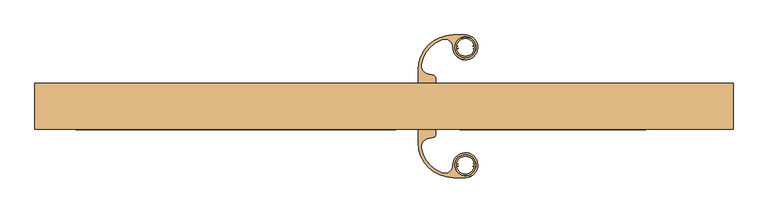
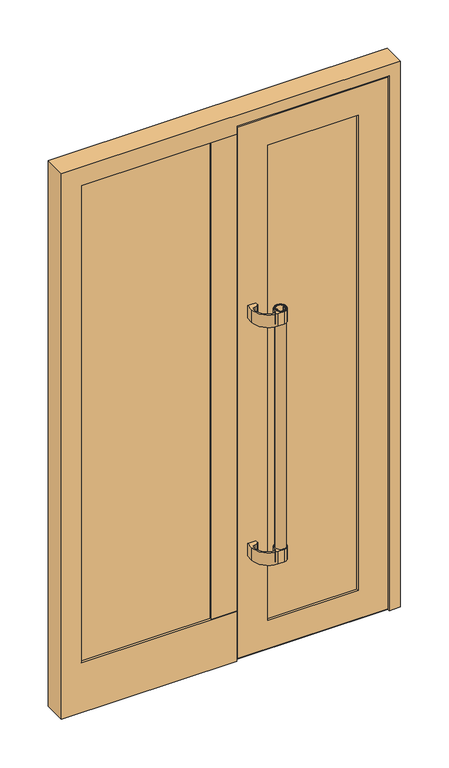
"""IFC4 building model written with IfcOpenShell, lengths in millimetres: door geometry, Jednokrilna vrata s fiksnim poljem_ : Jednokrilna vrata s fiksnim poljem_."""

from ifc_helpers import new_model, si_unit, point, frame, frame_2d, origin, place, context, project, spatial, polyline, circle_curve, trimmed, segment, composite_curve, outline, extrude, faceted_brep, source, transform, mapped, element, save
from ifc_brep_helpers import plane_surface, cylinder_surface, advanced_brep


def door_2957b7f0(model_context):
    return source(origin(), model_context, "Body", "SolidModel", [
        extrude(outline(composite_curve([segment(trimmed(circle_curve(frame_2d((149.1417143, 90.4503623)), 19.0), [point((130.1417143, 90.4503623))], [point((168.1417143, 90.4503623))], False, "CARTESIAN"), True, "CONTINUOUS"), segment(trimmed(circle_curve(frame_2d((149.1417143, 90.4503623)), 19.0), [point((168.1417143, 90.4503623))], [point((130.1417143, 90.4503623))], False, "CARTESIAN"), True, "CONTINUOUS")], self_intersect=False), holes=[composite_curve([segment(trimmed(circle_curve(frame_2d((134.6817143, 90.4503623)), 1.55), [point((135.7777298, 91.5463778))], [point((135.7777298, 89.3543468))], True, "CARTESIAN"), True, "CONTINUOUS"), segment(polyline([(135.7777298, 89.3543468), (136.924331, 89.3543468), (136.924331, 88.3831976)]), True, "CONTINUOUS"), segment(trimmed(circle_curve(frame_2d((134.6817143, 90.4503623)), 3.05), [point((136.924331, 88.3831976))], [point((134.6817143, 87.4003623))], False, "CARTESIAN"), True, "CONTINUOUS"), segment(polyline([(134.6817143, 87.4003623), (133.4351074, 87.4003623)]), True, "CONTINUOUS"), segment(trimmed(circle_curve(frame_2d((149.1417143, 90.4503623)), 16.0), [point((133.4351074, 87.4003623))], [point((164.8483211, 87.4003623))], True, "CARTESIAN"), True, "CONTINUOUS"), segment(polyline([(164.8483211, 87.4003623), (163.6417143, 87.4003623)]), True, "CONTINUOUS"), segment(trimmed(circle_curve(frame_2d((163.6417143, 90.4503623)), 3.05), [point((163.6417143, 87.4003623))], [point((161.3990975, 88.3831976))], False, "CARTESIAN"), True, "CONTINUOUS"), segment(polyline([(161.3990975, 88.3831976), (161.3990975, 89.3543468), (162.5456987, 89.3543468)]), True, "CONTINUOUS"), segment(trimmed(circle_curve(frame_2d((163.6417143, 90.4503623)), 1.55), [point((162.5456987, 89.3543468))], [point((162.5456987, 91.5463778))], True, "CARTESIAN"), True, "CONTINUOUS"), segment(polyline([(162.5456987, 91.5463778), (161.3990975, 91.5463778), (161.3990975, 92.5175271)]), True, "CONTINUOUS"), segment(trimmed(circle_curve(frame_2d((163.6417143, 90.4503623)), 3.05), [point((161.3990975, 92.5175271))], [point((163.6417143, 93.5003623))], False, "CARTESIAN"), True, "CONTINUOUS"), segment(polyline([(163.6417143, 93.5003623), (164.8483211, 93.5003623)]), True, "CONTINUOUS"), segment(trimmed(circle_curve(frame_2d((149.1417143, 90.4503623)), 16.0), [point((164.8483211, 93.5003623))], [point((133.4351074, 93.5003623))], True, "CARTESIAN"), True, "CONTINUOUS"), segment(polyline([(133.4351074, 93.5003623), (134.6817143, 93.5003623)]), True, "CONTINUOUS"), segment(trimmed(circle_curve(frame_2d((134.6817143, 90.4503623)), 3.05), [point((134.6817143, 93.5003623))], [point((136.924331, 92.5175271))], False, "CARTESIAN"), True, "CONTINUOUS"), segment(polyline([(136.924331, 92.5175271), (136.924331, 91.5463778), (135.7777298, 91.5463778)]), True, "CONTINUOUS")], self_intersect=False)]), frame((0.0, 0.0, 415.6), z_axis=(0.0, 0.0, 1.0), x_axis=(1.0, 0.0, 0.0)), (0.0, 0.0, 1.0), 1000.0),
        extrude(outline(composite_curve([segment(polyline([(67.5948371, 25.0026001), (62.5948371, 25.0026001), (62.5948371, 49.2003623)]), True, "CONTINUOUS"), segment(trimmed(circle_curve(frame_2d((126.5920781, 49.2003623)), 63.997241), [point((62.5948371, 49.2003623))], [point((126.5920781, 113.1976033))], False, "CARTESIAN"), True, "CONTINUOUS"), segment(polyline([(126.5920781, 113.1976033), (149.496015, 113.1976033)]), True, "CONTINUOUS"), segment(trimmed(circle_curve(frame_2d((149.0775698, 90.2580546)), 22.9433648), [point((149.496015, 113.1976033))], [point((162.5138287, 108.8554989))], False, "CARTESIAN"), True, "CONTINUOUS"), segment(trimmed(circle_curve(frame_2d((149.2194515, 90.4544363)), 22.7010919), [point((162.5138287, 108.8554989))], [point((164.3644356, 73.5438175))], False, "CARTESIAN"), True, "CONTINUOUS"), segment(trimmed(circle_curve(frame_2d((149.1366557, 90.5468846)), 22.8251959), [point((164.3644356, 73.5438175))], [point((135.7695998, 72.0452257))], False, "CARTESIAN"), True, "CONTINUOUS"), segment(trimmed(circle_curve(frame_2d((149.0233469, 90.3900511)), 22.631713), [point((135.7695998, 72.0452257))], [point((126.3917143, 90.4503623))], False, "CARTESIAN"), True, "CONTINUOUS"), segment(trimmed(circle_curve(frame_2d((111.3917226, 90.4903359)), 15.0000449), [point((126.3917143, 90.4503623))], [point((106.2238604, 104.5720456))], True, "CARTESIAN"), True, "CONTINUOUS"), segment(trimmed(circle_curve(frame_2d((126.5224998, 49.2610605)), 58.9180773), [point((106.2238604, 104.5720456))], [point((68.5269912, 59.6466662))], True, "CARTESIAN"), True, "CONTINUOUS"), segment(trimmed(circle_curve(frame_2d((83.2418584, 56.7162785)), 15.0038159), [point((68.5269912, 59.6466662))], [point((79.3585852, 42.2237053))], True, "CARTESIAN"), True, "CONTINUOUS"), segment(polyline([(79.3585852, 42.2237053), (90.8889324, 39.1341581)]), True, "CONTINUOUS"), segment(trimmed(circle_curve(frame_2d((89.5948371, 34.3045289)), 5.0), [point((90.8889324, 39.1341581))], [point((94.5948371, 34.3045289))], False, "CARTESIAN"), True, "CONTINUOUS"), segment(polyline([(94.5948371, 34.3045289), (94.5948371, 25.0026001), (67.5948371, 25.0026001)]), True, "CONTINUOUS")], self_intersect=False), holes=[composite_curve([segment(trimmed(circle_curve(frame_2d((149.1417143, 90.4503623)), 19.25), [point((129.8917143, 90.4503623))], [point((168.3917143, 90.4503623))], True, "CARTESIAN"), True, "CONTINUOUS"), segment(trimmed(circle_curve(frame_2d((149.1417143, 90.4503623)), 19.25), [point((168.3917143, 90.4503623))], [point((129.8917143, 90.4503623))], True, "CARTESIAN"), True, "CONTINUOUS")], self_intersect=False)]), frame((0.0, 0.0, 1365.6), z_axis=(0.0, 0.0, 1.0), x_axis=(1.0, 0.0, 0.0)), (0.0, 0.0, 1.0), 50.0),
        extrude(outline(composite_curve([segment(polyline([(67.5948371, 25.0026001), (62.5948371, 25.0026001), (62.5948371, 49.2003623)]), True, "CONTINUOUS"), segment(trimmed(circle_curve(frame_2d((126.5920781, 49.2003623)), 63.997241), [point((62.5948371, 49.2003623))], [point((126.5920781, 113.1976033))], False, "CARTESIAN"), True, "CONTINUOUS"), segment(polyline([(126.5920781, 113.1976033), (149.496015, 113.1976033)]), True, "CONTINUOUS"), segment(trimmed(circle_curve(frame_2d((149.0775698, 90.2580546)), 22.9433648), [point((149.496015, 113.1976033))], [point((162.5138287, 108.8554989))], False, "CARTESIAN"), True, "CONTINUOUS"), segment(trimmed(circle_curve(frame_2d((149.2194515, 90.4544363)), 22.7010919), [point((162.5138287, 108.8554989))], [point((164.3644356, 73.5438175))], False, "CARTESIAN"), True, "CONTINUOUS"), segment(trimmed(circle_curve(frame_2d((149.1366557, 90.5468846)), 22.8251959), [point((164.3644356, 73.5438175))], [point((135.7695998, 72.0452257))], False, "CARTESIAN"), True, "CONTINUOUS"), segment(trimmed(circle_curve(frame_2d((149.0233469, 90.3900511)), 22.631713), [point((135.7695998, 72.0452257))], [point((126.3917143, 90.4503623))], False, "CARTESIAN"), True, "CONTINUOUS"), segment(trimmed(circle_curve(frame_2d((111.3917226, 90.4903359)), 15.0000449), [point((126.3917143, 90.4503623))], [point((106.2238604, 104.5720456))], True, "CARTESIAN"), True, "CONTINUOUS"), segment(trimmed(circle_curve(frame_2d((126.5224998, 49.2610605)), 58.9180773), [point((106.2238604, 104.5720456))], [point((68.5269912, 59.6466662))], True, "CARTESIAN"), True, "CONTINUOUS"), segment(trimmed(circle_curve(frame_2d((83.2418584, 56.7162785)), 15.0038159), [point((68.5269912, 59.6466662))], [point((79.3585852, 42.2237053))], True, "CARTESIAN"), True, "CONTINUOUS"), segment(polyline([(79.3585852, 42.2237053), (90.8889324, 39.1341581)]), True, "CONTINUOUS"), segment(trimmed(circle_curve(frame_2d((89.5948371, 34.3045289)), 5.0), [point((90.8889324, 39.1341581))], [point((94.5948371, 34.3045289))], False, "CARTESIAN"), True, "CONTINUOUS"), segment(polyline([(94.5948371, 34.3045289), (94.5948371, 25.0026001), (67.5948371, 25.0026001)]), True, "CONTINUOUS")], self_intersect=False), holes=[composite_curve([segment(trimmed(circle_curve(frame_2d((149.1417143, 90.4503623)), 19.25), [point((129.8917143, 90.4503623))], [point((168.3917143, 90.4503623))], True, "CARTESIAN"), True, "CONTINUOUS"), segment(trimmed(circle_curve(frame_2d((149.1417143, 90.4503623)), 19.25), [point((168.3917143, 90.4503623))], [point((129.8917143, 90.4503623))], True, "CARTESIAN"), True, "CONTINUOUS")], self_intersect=False)]), frame((0.0, 0.0, 415.6), z_axis=(0.0, 0.0, 1.0), x_axis=(1.0, 0.0, 0.0)), (0.0, 0.0, 1.0), 50.0),
        extrude(outline(composite_curve([segment(trimmed(circle_curve(frame_2d((149.1417143, -125.4477253)), 19.0), [point((130.1417143, -125.4477253))], [point((168.1417143, -125.4477253))], False, "CARTESIAN"), True, "CONTINUOUS"), segment(trimmed(circle_curve(frame_2d((149.1417143, -125.4477253)), 19.0), [point((168.1417143, -125.4477253))], [point((130.1417143, -125.4477253))], False, "CARTESIAN"), True, "CONTINUOUS")], self_intersect=False), holes=[composite_curve([segment(polyline([(135.7777298, -126.5437408), (136.924331, -126.5437408), (136.924331, -127.51489)]), True, "CONTINUOUS"), segment(trimmed(circle_curve(frame_2d((134.6817143, -125.4477253)), 3.05), [point((136.924331, -127.51489))], [point((134.6817143, -128.4977253))], False, "CARTESIAN"), True, "CONTINUOUS"), segment(polyline([(134.6817143, -128.4977253), (133.4351074, -128.4977253)]), True, "CONTINUOUS"), segment(trimmed(circle_curve(frame_2d((149.1417143, -125.4477253)), 16.0), [point((133.4351074, -128.4977253))], [point((164.8483211, -128.4977253))], True, "CARTESIAN"), True, "CONTINUOUS"), segment(polyline([(164.8483211, -128.4977253), (163.6417143, -128.4977253)]), True, "CONTINUOUS"), segment(trimmed(circle_curve(frame_2d((163.6417143, -125.4477253)), 3.05), [point((163.6417143, -128.4977253))], [point((161.3990975, -127.51489))], False, "CARTESIAN"), True, "CONTINUOUS"), segment(polyline([(161.3990975, -127.51489), (161.3990975, -126.5437408), (162.5456987, -126.5437408)]), True, "CONTINUOUS"), segment(trimmed(circle_curve(frame_2d((163.6417143, -125.4477253)), 1.55), [point((162.5456987, -126.5437408))], [point((162.5456987, -124.3517097))], True, "CARTESIAN"), True, "CONTINUOUS"), segment(polyline([(162.5456987, -124.3517097), (161.3990975, -124.3517097), (161.3990975, -123.3805605)]), True, "CONTINUOUS"), segment(trimmed(circle_curve(frame_2d((163.6417143, -125.4477253)), 3.05), [point((161.3990975, -123.3805605))], [point((163.6417143, -122.3977253))], False, "CARTESIAN"), True, "CONTINUOUS"), segment(polyline([(163.6417143, -122.3977253), (164.8483211, -122.3977253)]), True, "CONTINUOUS"), segment(trimmed(circle_curve(frame_2d((149.1417143, -125.4477253)), 16.0), [point((164.8483211, -122.3977253))], [point((133.4351074, -122.3977253))], True, "CARTESIAN"), True, "CONTINUOUS"), segment(polyline([(133.4351074, -122.3977253), (134.6817143, -122.3977253)]), True, "CONTINUOUS"), segment(trimmed(circle_curve(frame_2d((134.6817143, -125.4477253)), 3.05), [point((134.6817143, -122.3977253))], [point((136.924331, -123.3805605))], False, "CARTESIAN"), True, "CONTINUOUS"), segment(polyline([(136.924331, -123.3805605), (136.924331, -124.3517097), (135.7777298, -124.3517097)]), True, "CONTINUOUS"), segment(trimmed(circle_curve(frame_2d((134.6817143, -125.4477253)), 1.55), [point((135.7777298, -124.3517097))], [point((135.7777298, -126.5437408))], True, "CARTESIAN"), True, "CONTINUOUS")], self_intersect=False)]), frame((0.0, 0.0, 415.6), z_axis=(0.0, 0.0, 1.0), x_axis=(1.0, 0.0, 0.0)), (0.0, 0.0, 1.0), 1000.0),
        extrude(outline(composite_curve([segment(polyline([(67.5948371, -59.999963), (94.5948371, -59.999963), (94.5948371, -69.3018919)]), True, "CONTINUOUS"), segment(trimmed(circle_curve(frame_2d((89.5948371, -69.3018919)), 5.0), [point((94.5948371, -69.3018919))], [point((90.8889324, -74.131521))], False, "CARTESIAN"), True, "CONTINUOUS"), segment(polyline([(90.8889324, -74.131521), (79.3585852, -77.2210682)]), True, "CONTINUOUS"), segment(trimmed(circle_curve(frame_2d((83.2418584, -91.7136415)), 15.0038159), [point((79.3585852, -77.2210682))], [point((68.5269912, -94.6440291))], True, "CARTESIAN"), True, "CONTINUOUS"), segment(trimmed(circle_curve(frame_2d((126.5224998, -84.2584235)), 58.9180773), [point((68.5269912, -94.6440291))], [point((106.2238604, -139.5694085))], True, "CARTESIAN"), True, "CONTINUOUS"), segment(trimmed(circle_curve(frame_2d((111.3917226, -125.4876988)), 15.0000449), [point((106.2238604, -139.5694085))], [point((126.3917143, -125.4477253))], True, "CARTESIAN"), True, "CONTINUOUS"), segment(trimmed(circle_curve(frame_2d((149.0233469, -125.3874141)), 22.631713), [point((126.3917143, -125.4477253))], [point((135.7695998, -107.0425886))], False, "CARTESIAN"), True, "CONTINUOUS"), segment(trimmed(circle_curve(frame_2d((149.1366557, -125.5442475)), 22.8251959), [point((135.7695998, -107.0425886))], [point((164.3644356, -108.5411805))], False, "CARTESIAN"), True, "CONTINUOUS"), segment(trimmed(circle_curve(frame_2d((149.2194515, -125.4517993)), 22.7010919), [point((164.3644356, -108.5411805))], [point((162.5138287, -143.8528619))], False, "CARTESIAN"), True, "CONTINUOUS"), segment(trimmed(circle_curve(frame_2d((149.0775698, -125.2554176)), 22.9433648), [point((162.5138287, -143.8528619))], [point((149.496015, -148.1949662))], False, "CARTESIAN"), True, "CONTINUOUS"), segment(polyline([(149.496015, -148.1949662), (126.5920781, -148.1949662)]), True, "CONTINUOUS"), segment(trimmed(circle_curve(frame_2d((126.5920781, -84.1977253)), 63.997241), [point((126.5920781, -148.1949662))], [point((62.5948371, -84.1977253))], False, "CARTESIAN"), True, "CONTINUOUS"), segment(polyline([(62.5948371, -84.1977253), (62.5948371, -59.999963), (67.5948371, -59.999963)]), True, "CONTINUOUS")], self_intersect=False), holes=[composite_curve([segment(trimmed(circle_curve(frame_2d((149.1417143, -125.4477253)), 19.25), [point((129.8917143, -125.4477253))], [point((168.3917143, -125.4477253))], True, "CARTESIAN"), True, "CONTINUOUS"), segment(trimmed(circle_curve(frame_2d((149.1417143, -125.4477253)), 19.25), [point((168.3917143, -125.4477253))], [point((129.8917143, -125.4477253))], True, "CARTESIAN"), True, "CONTINUOUS")], self_intersect=False)]), frame((0.0, 0.0, 1365.6), z_axis=(0.0, 0.0, 1.0), x_axis=(1.0, 0.0, 0.0)), (0.0, 0.0, 1.0), 50.0),
        extrude(outline(composite_curve([segment(polyline([(67.5948371, -59.999963), (94.5948371, -59.999963), (94.5948371, -69.3018919)]), True, "CONTINUOUS"), segment(trimmed(circle_curve(frame_2d((89.5948371, -69.3018919)), 5.0), [point((94.5948371, -69.3018919))], [point((90.8889324, -74.131521))], False, "CARTESIAN"), True, "CONTINUOUS"), segment(polyline([(90.8889324, -74.131521), (79.3585852, -77.2210682)]), True, "CONTINUOUS"), segment(trimmed(circle_curve(frame_2d((83.2418584, -91.7136415)), 15.0038159), [point((79.3585852, -77.2210682))], [point((68.5269912, -94.6440291))], True, "CARTESIAN"), True, "CONTINUOUS"), segment(trimmed(circle_curve(frame_2d((126.5224998, -84.2584235)), 58.9180773), [point((68.5269912, -94.6440291))], [point((106.2238604, -139.5694085))], True, "CARTESIAN"), True, "CONTINUOUS"), segment(trimmed(circle_curve(frame_2d((111.3917226, -125.4876988)), 15.0000449), [point((106.2238604, -139.5694085))], [point((126.3917143, -125.4477253))], True, "CARTESIAN"), True, "CONTINUOUS"), segment(trimmed(circle_curve(frame_2d((149.0233469, -125.3874141)), 22.631713), [point((126.3917143, -125.4477253))], [point((135.7695998, -107.0425886))], False, "CARTESIAN"), True, "CONTINUOUS"), segment(trimmed(circle_curve(frame_2d((149.1366557, -125.5442475)), 22.8251959), [point((135.7695998, -107.0425886))], [point((164.3644356, -108.5411805))], False, "CARTESIAN"), True, "CONTINUOUS"), segment(trimmed(circle_curve(frame_2d((149.2194515, -125.4517993)), 22.7010919), [point((164.3644356, -108.5411805))], [point((162.5138287, -143.8528619))], False, "CARTESIAN"), True, "CONTINUOUS"), segment(trimmed(circle_curve(frame_2d((149.0775698, -125.2554176)), 22.9433648), [point((162.5138287, -143.8528619))], [point((149.496015, -148.1949662))], False, "CARTESIAN"), True, "CONTINUOUS"), segment(polyline([(149.496015, -148.1949662), (126.5920781, -148.1949662)]), True, "CONTINUOUS"), segment(trimmed(circle_curve(frame_2d((126.5920781, -84.1977253)), 63.997241), [point((126.5920781, -148.1949662))], [point((62.5948371, -84.1977253))], False, "CARTESIAN"), True, "CONTINUOUS"), segment(polyline([(62.5948371, -84.1977253), (62.5948371, -59.999963), (67.5948371, -59.999963)]), True, "CONTINUOUS")], self_intersect=False), holes=[composite_curve([segment(trimmed(circle_curve(frame_2d((149.1417143, -125.4477253)), 19.25), [point((129.8917143, -125.4477253))], [point((168.3917143, -125.4477253))], True, "CARTESIAN"), True, "CONTINUOUS"), segment(trimmed(circle_curve(frame_2d((149.1417143, -125.4477253)), 19.25), [point((168.3917143, -125.4477253))], [point((129.8917143, -125.4477253))], True, "CARTESIAN"), True, "CONTINUOUS")], self_intersect=False)]), frame((0.0, 0.0, 415.6), z_axis=(0.0, 0.0, 1.0), x_axis=(1.0, 0.0, 0.0)), (0.0, 0.0, 1.0), 50.0),
        extrude(outline(polyline([(123.4896574, -50.5041386), (123.4896574, -6.5041386), (495.0103426, -6.5041386), (495.0103426, -50.5041386), (123.4896574, -50.5041386)])), frame((0.0, 0.0, 116.9896574), z_axis=(0.0, 0.0, 1.0), x_axis=(1.0, 0.0, 0.0)), (0.0, 0.0, 1.0), 1928.0206852),
        faceted_brep([(480.0077577, -59.999963, 2030.0077577), (480.0077577, -50.5041386, 2030.0077577), (480.0077577, -50.5041386, 131.9922423), (480.0077577, -59.999963, 131.9922423), (592.0034819, -59.999963, 19.9965181), (592.0034819, -59.999963, 2142.0034819), (26.4965181, -59.999963, 2142.0034819), (26.4965181, -59.999963, 19.9965181), (138.4922423, -59.999963, 131.9922423), (138.4922423, -59.999963, 2030.0077577), (138.4922423, -50.5041386, 131.9922423), (495.0103426, -50.5041386, 2045.0103426), (495.0103426, -50.5041386, 116.9896574), (123.4896574, -50.5041386, 116.9896574), (123.4896574, -50.5041386, 2045.0103426), (138.4922423, -50.5041386, 2030.0077577), (495.0103426, -6.5041386, 2045.0103426), (495.0103426, -6.5041386, 116.9896574), (123.4896574, -6.5041386, 116.9896574), (123.4896574, -6.5041386, 2045.0103426), (480.0079287, -6.5041386, 2030.0079287), (480.0079287, -6.5041386, 131.9920713), (138.4920713, -6.5041386, 131.9920713), (138.4920713, -6.5041386, 2030.0079287), (480.0079287, 25.0026001, 2030.0079287), (480.0079287, 25.0026001, 131.9920713), (138.4920713, 25.0026001, 131.9920713), (563.0095093, 25.0026001, 2113.0095093), (563.0095093, 25.0026001, 48.9904907), (55.4904907, 25.0026001, 48.9904907), (55.4904907, 25.0026001, 2113.0095093), (138.4920713, 25.0026001, 2030.0079287), (563.0095093, 16.5025161, 2113.0095093), (563.0095093, 16.5025161, 48.9904907), (55.4904907, 16.5025161, 48.9904907), (574.406518, 16.5025161, 2124.406518), (574.406518, 16.5025161, 37.593482), (44.093482, 16.5025161, 37.593482), (44.093482, 16.5025161, 2124.406518), (55.4904907, 16.5025161, 2113.0095093), (574.406518, -51.4892, 2124.406518), (574.406518, -51.4892, 37.593482), (44.093482, -51.4892, 37.593482), (592.0034819, -51.4892, 2142.0034819), (592.0034819, -51.4892, 19.9965181), (26.4965181, -51.4892, 19.9965181), (26.4965181, -51.4892, 2142.0034819), (44.093482, -51.4892, 2124.406518)], [[[0, 1, 2, 3]], [[4, 5, 6, 7], [0, 3, 8, 9]], [[2, 10, 8, 3]], [[11, 12, 13, 14], [2, 1, 15, 10]], [[16, 17, 12, 11]], [[17, 18, 13, 12]], [[17, 16, 19, 18], [20, 21, 22, 23]], [[24, 25, 21, 20]], [[25, 26, 22, 21]], [[27, 28, 29, 30], [25, 24, 31, 26]], [[32, 33, 28, 27]], [[33, 34, 29, 28]], [[35, 36, 37, 38], [33, 32, 39, 34]], [[40, 41, 36, 35]], [[41, 42, 37, 36]], [[43, 44, 45, 46], [41, 40, 47, 42]], [[5, 4, 44, 43]], [[4, 7, 45, 44]], [[10, 15, 9, 8]], [[18, 19, 14, 13]], [[26, 31, 23, 22]], [[34, 39, 30, 29]], [[42, 47, 38, 37]], [[7, 6, 46, 45]], [[15, 1, 0, 9]], [[19, 16, 11, 14]], [[31, 24, 20, 23]], [[39, 32, 27, 30]], [[47, 40, 35, 38]], [[6, 5, 43, 46]]]),
        extrude(outline(polyline([(-55.5040107, -11.50254), (-55.5040107, -51.50254), (-581.9999063, -51.50254), (-581.9999063, -11.50254), (-55.5040107, -11.50254)])), frame((0.0, 0.0, 191.9998283), z_axis=(0.0, 0.0, 1.0), x_axis=(1.0, 0.0, 0.0)), (0.0, 0.0, 1.0), 1940.0000781),
        advanced_brep(
        [(-640.0, 25.0, 10.0), (640.0, 25.0, 10.0), (640.0, -59.9997761, 10.0), (597.0034819, -59.9997761, 10.0), (597.0034819, -51.495562, 10.0), (21.4958143, -51.4957208, 10.0), (21.5, -59.999963, 10.0), (-640.0, -60.0013127, 10.0), (-640.0, -60.0013127, 2190.0), (-640.0, 25.0, 2190.0), (21.5, -60.0013127, 2115.5001827), (21.5, -60.0013127, 2147.0034819), (597.0034819, -60.0013127, 2147.0034819), (640.0, -60.0013127, 2190.0), (21.5, -60.0013127, 209.9996501), (-565.5001827, -60.0013127, 209.9996501), (-565.5001827, -60.0013127, 2115.5001827), (21.5, -51.4957208, 2147.0034819), (21.5, -59.4969669, 2115.5001827), (21.5, -59.4969669, 209.9996501), (597.0034819, -51.4957208, 2147.0034819), (36.9, -51.4957208, 2131.5093839), (581.5093839, -51.4957208, 2131.5093839), (581.5093839, -51.4957208, 25.5020089), (36.9, -51.4957208, 25.5020089), (640.0, 25.0, 2190.0), (568.009384, 25.0, 2118.009384), (50.4000003, 25.0, 2118.009384), (50.4000003, 25.0, 25.5020089), (568.009384, 25.0, 25.5020089), (-568.4799018, 25.0, 206.9998328), (-70.5040152, 25.0, 206.9998328), (-70.5040152, 25.0, 2118.4799018), (-568.4799018, 25.0, 2118.4799018), (-568.4799018, -11.50254, 2118.4799018), (-568.4799018, -11.50254, 206.9998328), (-70.5040152, -11.50254, 2118.4799018), (-70.5040152, -11.50254, 206.9998328), (568.009384, 16.4961541, 25.5020089), (568.009384, 16.4961541, 2118.009384), (50.4000003, 16.5038834, 25.5020089), (36.9, 16.5038834, 25.5020089), (36.9, -2.5534255, 25.5020089), (581.5093839, -2.5534255, 25.5020089), (581.5093839, 16.4961541, 25.5020089), (50.4000003, 16.5038834, 2118.009384), (-565.5001827, -51.50254, 209.9996501), (-565.5001827, -51.50254, 2115.5001827), (-73.5038331, -59.4969669, 209.9996501), (-73.5038331, -51.50254, 209.9996501), (-581.9999063, -51.50254, 2131.9999063), (-55.5040107, -51.50254, 2131.9999063), (-55.5040107, -51.50254, 191.9998283), (-581.9999063, -51.50254, 191.9998283), (-73.5038331, -51.50254, 2115.5001827), (-73.5038331, -59.4969669, 2115.5001827), (-581.9999063, -11.50254, 191.9998283), (-581.9999063, -11.50254, 2131.9999063), (-55.5040107, -11.50254, 191.9998283), (-55.5040107, -11.50254, 2131.9999063), (581.5093839, 16.5038834, 2131.5093839), (36.9, 16.5038834, 2131.5093839), (36.9, -34.7185189, 25.5020089), (36.9, -23.2837038, 29.7334181), (36.9, -12.6811663, 29.5820648), (581.5093839, -12.6811663, 29.5820648), (581.5093839, -23.2837038, 29.7334181), (581.5093839, -34.7185189, 25.5020089)],
        [
            (0, 1),
            (1, 2),
            (2, 3),
            (3, 4),
            (4, 5),
            (5, 6),
            (6, 7),
            (7, 0),
            (7, 8),
            (8, 9),
            (9, 0),
            (10, 11),
            (11, 12),
            (12, 3),
            (2, 13),
            (13, 8),
            (6, 14),
            (14, 15),
            (15, 16),
            (16, 10),
            (5, 17),
            (17, 11),
            (10, 18),
            (18, 19),
            (19, 14),
            (4, 20),
            (20, 17),
            (21, 22),
            (22, 23),
            (23, 24),
            (24, 21),
            (12, 20),
            (1, 25),
            (25, 13),
            (9, 25),
            (26, 27),
            (27, 28),
            (28, 29),
            (29, 26),
            (30, 31),
            (31, 32),
            (32, 33),
            (33, 30),
            (34, 35),
            (35, 30),
            (33, 34),
            (36, 32),
            (31, 37),
            (37, 36),
            (35, 37),
            (29, 38),
            (38, 39),
            (39, 26),
            (28, 40),
            (40, 41),
            (41, 42),
            (42, 43),
            (43, 44),
            (44, 38),
            (45, 40),
            (27, 45),
            (15, 46),
            (46, 47),
            (47, 16),
            (19, 48),
            (48, 49),
            (49, 46),
            (50, 51),
            (51, 52),
            (52, 53),
            (53, 50),
            (49, 54),
            (54, 47),
            (48, 55),
            (55, 54),
            (53, 56),
            (56, 57),
            (57, 50),
            (52, 58),
            (58, 56),
            (59, 58),
            (51, 59),
            (59, 57),
            (34, 36),
            (18, 55),
            (44, 60),
            (60, 61),
            (61, 41),
            (45, 39),
            (24, 62),
            (62, 63),
            (63, 64, circle_curve(frame((36.9, -18.1783048, 15.936763), z_axis=(-1.0, 0.0, 0.0), x_axis=(0.0, 0.3736760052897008, 0.9275592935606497)), 14.7109752)),
            (64, 42),
            (61, 21),
            (43, 65),
            (65, 66, circle_curve(frame((581.5093839, -18.1783048, 15.936763), z_axis=(1.0, 0.0, 0.0), x_axis=(0.0, 0.3736760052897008, 0.9275592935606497)), 14.7109752)),
            (66, 67),
            (67, 23),
            (22, 60),
            (64, 65),
            (63, 66),
            (62, 67),
        ],
        [
            plane_surface(frame((-640.0, 25.0, 10.0), z_axis=(0.0, 0.0, -1.0), x_axis=(0.0, 1.0, 0.0))),
            plane_surface(frame((-640.0, 25.0, 10.0), z_axis=(-1.0, 0.0, 0.0), x_axis=(0.0, 0.0, 1.0))),
            plane_surface(frame((-640.0, -60.0013127, 10.0), z_axis=(0.0, -1.0, 0.0), x_axis=(0.0, 0.0, 1.0))),
            plane_surface(frame((21.5, 25.0, 2190.0), z_axis=(1.0, 0.0, 0.0), x_axis=(0.0, 1.0, 0.0))),
            plane_surface(frame((36.9, -51.4957208, 2190.0), z_axis=(0.0, -1.0, 0.0), x_axis=(0.0, 0.0, -1.0))),
            plane_surface(frame((597.0034819, -59.9997761, 2147.0034819), z_axis=(-1.0, 0.0, 0.0), x_axis=(0.0, 0.0, -1.0))),
            plane_surface(frame((640.0, 25.0, 2190.0), z_axis=(1.0, 0.0, 0.0), x_axis=(0.0, 0.0, -1.0))),
            plane_surface(frame((-568.4799018, 25.0, 10.0), z_axis=(0.0, 1.0, 0.0), x_axis=(0.0, 0.0, 1.0))),
            plane_surface(frame((-568.4799018, -11.50254, 10.0), z_axis=(1.0, 0.0, 0.0), x_axis=(0.0, 0.0, 1.0))),
            plane_surface(frame((-70.5040152, -11.47254, 2190.0), z_axis=(-1.0, 0.0, 0.0), x_axis=(0.0, 0.0, -1.0))),
            plane_surface(frame((-640.0, 25.0, 206.9998328), z_axis=(0.0, 0.0, 1.0), x_axis=(1.0, 0.0, 0.0))),
            plane_surface(frame((568.009384, 16.4961541, 2118.009384), z_axis=(-1.0, 0.0, 0.0), x_axis=(0.0, 0.0, -1.0))),
            plane_surface(frame((21.5, 25.0, 25.5020089), z_axis=(0.0, 0.0, 1.0), x_axis=(1.0, 0.0, 0.0))),
            plane_surface(frame((50.4000003, 22.7499731, 2190.0), z_axis=(1.0, 0.0, 0.0), x_axis=(0.0, 0.0, -1.0))),
            plane_surface(frame((-565.5001827, -60.0013127, 10.0), z_axis=(1.0, 0.0, 0.0), x_axis=(0.0, 0.0, 1.0))),
            plane_surface(frame((-640.0, -51.50254, 209.9996501), z_axis=(0.0, 0.0, 1.0), x_axis=(1.0, 0.0, 0.0))),
            plane_surface(frame((-565.5001827, -51.50254, 10.0), z_axis=(0.0, 1.0, 0.0), x_axis=(0.0, 0.0, 1.0))),
            plane_surface(frame((-73.5038331, -59.4969669, 2190.0), z_axis=(-1.0, 0.0, 0.0), x_axis=(0.0, 0.0, -1.0))),
            plane_surface(frame((-581.9999063, -51.50254, 10.0), z_axis=(1.0, 0.0, 0.0), x_axis=(0.0, 0.0, 1.0))),
            plane_surface(frame((-640.0, -11.50254, 191.9998283), z_axis=(0.0, 0.0, 1.0), x_axis=(1.0, 0.0, 0.0))),
            plane_surface(frame((-55.5040107, -51.49254, 2190.0), z_axis=(-1.0, 0.0, 0.0), x_axis=(0.0, 0.0, -1.0))),
            plane_surface(frame((-581.9999063, -11.50254, 10.0), z_axis=(0.0, -1.0, 0.0), x_axis=(0.0, 0.0, 1.0))),
            plane_surface(frame((21.4958143, -59.4969669, 2190.0), z_axis=(0.0, -1.0, 0.0), x_axis=(0.0, 0.0, -1.0))),
            plane_surface(frame((50.4000003, 16.5038834, 2190.0), z_axis=(0.0, -1.0, 0.0), x_axis=(0.0, 0.0, -1.0))),
            plane_surface(frame((36.9, 16.5038834, 2190.0), z_axis=(1.0, 0.0, 0.0), x_axis=(0.0, 0.0, -1.0))),
            plane_surface(frame((581.5093839, 15.4000275, 2131.5093839), z_axis=(-1.0, 0.0, 0.0), x_axis=(0.0, 0.0, -1.0))),
            plane_surface(frame((21.5, -2.5534255, 25.5020089), z_axis=(0.0, 0.3736760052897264, 0.9275592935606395), x_axis=(1.0, 0.0, 0.0))),
            cylinder_surface(frame((21.5, -18.1783048, 15.936763), z_axis=(-1.0, 0.0, 0.0), x_axis=(0.0, 0.3736760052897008, 0.9275592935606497)), 14.7109752),
            plane_surface(frame((21.5, -23.2837038, 29.7334181), z_axis=(0.0, -0.347046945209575, 0.9378477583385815), x_axis=(1.0, 0.0, 0.0))),
            plane_surface(frame((21.5, -34.7185189, 25.5020089), z_axis=(0.0, 0.0, 1.0), x_axis=(1.0, 0.0, 0.0))),
            plane_surface(frame((-640.0, 25.0, 2190.0), z_axis=(0.0, 0.0, 1.0), x_axis=(1.0, 0.0, 0.0))),
            plane_surface(frame((-565.5001827, -60.0013127, 2115.5001827), z_axis=(0.0, 0.0, -1.0), x_axis=(1.0, 0.0, 0.0))),
            plane_surface(frame((-581.9999063, -51.50254, 2131.9999063), z_axis=(0.0, 0.0, -1.0), x_axis=(1.0, 0.0, 0.0))),
            plane_surface(frame((-568.4799018, -11.50254, 2118.4799018), z_axis=(0.0, 0.0, -1.0), x_axis=(1.0, 0.0, 0.0))),
            plane_surface(frame((21.5, -59.9997761, 2147.0034819), z_axis=(0.0, 0.0, -1.0), x_axis=(1.0, 0.0, 0.0))),
            plane_surface(frame((21.5, 15.4000275, 2131.5093839), z_axis=(0.0, 0.0, -1.0), x_axis=(1.0, 0.0, 0.0))),
            plane_surface(frame((21.5, 16.4961541, 2118.009384), z_axis=(0.0, 0.0, -1.0), x_axis=(1.0, 0.0, 0.0))),
        ],
        [
            (0, [[1, 2, 3, 4, 5, 6, 7, 8]]),
            (1, [[9, 10, 11, -8]]),
            (2, [[12, 13, 14, -3, 15, 16, -9, -7, 17, 18, 19, 20]]),
            (3, [[-6, 21, 22, -12, 23, 24, 25, -17]]),
            (4, [[26, 27, -21, -5], [28, 29, 30, 31]]),
            (5, [[32, -26, -4, -14]]),
            (6, [[-15, -2, 33, 34]]),
            (7, [[35, -33, -1, -11], [36, 37, 38, 39], [40, 41, 42, 43]]),
            (8, [[44, 45, -43, 46]]),
            (9, [[47, -41, 48, 49]]),
            (10, [[50, -48, -40, -45]]),
            (11, [[-39, 51, 52, 53]]),
            (12, [[54, 55, 56, 57, 58, 59, -51, -38]]),
            (13, [[60, -54, -37, 61]]),
            (14, [[-19, 62, 63, 64]]),
            (15, [[-25, 65, 66, 67, -62, -18]]),
            (16, [[68, 69, 70, 71], [-67, 72, 73, -63]]),
            (17, [[-66, 74, 75, -72]]),
            (18, [[-71, 76, 77, 78]]),
            (19, [[-70, 79, 80, -76]]),
            (20, [[81, -79, -69, 82]]),
            (21, [[-80, -81, 83, -77], [84, -49, -50, -44]]),
            (22, [[85, -74, -65, -24]]),
            (23, [[-52, -59, 86, 87, 88, -55, -60, 89]]),
            (24, [[-31, 90, 91, 92, 93, -56, -88, 94]]),
            (25, [[-86, -58, 95, 96, 97, 98, -29, 99]]),
            (26, [[-93, 100, -95, -57]]),
            (27, [[-96, -100, -92, 101]]),
            (28, [[-91, 102, -97, -101]]),
            (29, [[-98, -102, -90, -30]]),
            (30, [[-16, -34, -35, -10]]),
            (31, [[-64, -73, -75, -85, -23, -20]]),
            (32, [[-83, -82, -68, -78]]),
            (33, [[-42, -47, -84, -46]]),
            (34, [[-22, -27, -32, -13]]),
            (35, [[-28, -94, -87, -99]]),
            (36, [[-89, -61, -36, -53]]),
        ],
    ),
    ])


if __name__ == "__main__":
    model = new_model("IFC4")
    model_context = context("Model", 3, world=origin())
    ifc_project = project(units=[si_unit("LENGTHUNIT", "METRE", prefix="MILLI")], contexts=[model_context])
    site = spatial("IfcSite", under=ifc_project)
    building = spatial("IfcBuilding", under=site)
    placement = place(None, origin())
    door_shape = door_2957b7f0(model_context)
    element("IfcDoor", 1, ObjectType="Jednokrilna vrata s fiksnim poljem_ : Jednokrilna vrata s fiksnim poljem_", at=placement, inside=building, context=model_context, shape_type="MappedRepresentation", body=[
        mapped(door_shape, transform((0.0, 0.0, 0.0), x_axis=(1.0, 0.0, 0.0), y_axis=(0.0, 1.0, 0.0), z_axis=(0.0, 0.0, 1.0))),
    ])
    save(model, "model.ifc")
